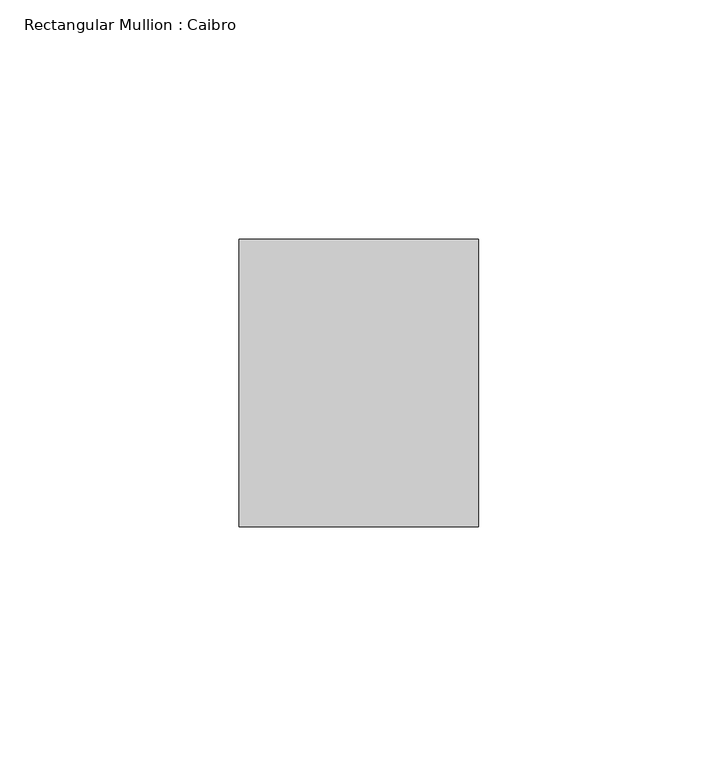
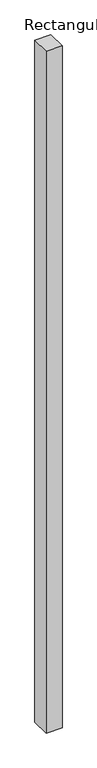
"""IFC4 building model written with IfcOpenShell, lengths in millimetres: member geometry, Rectangular Mullion : Caibro."""

from ifc_helpers import new_model, si_unit, frame, origin, place, context, project, spatial, polyline, outline, extrude, source, transform, mapped, element, save


def rectangular_mullion_caibro_469f6316(model_context):
    return source(origin(), model_context, "Body", "SweptSolid", [
        extrude(outline(polyline([(0.0, -60.0), (-50.0, -60.0), (-50.0, 0.0), (0.0, 0.0), (0.0, -60.0)])), frame((0.0, 0.0, -2249.7393248), z_axis=(0.0, 0.0, 1.0), x_axis=(1.0, 0.0, 0.0)), (0.0, 0.0, 1.0), 2249.7393248),
    ])


if __name__ == "__main__":
    model = new_model("IFC4")
    model_context = context("Model", 3, world=origin())
    ifc_project = project(units=[si_unit("LENGTHUNIT", "METRE", prefix="MILLI")], contexts=[model_context])
    site = spatial("IfcSite", under=ifc_project)
    building = spatial("IfcBuilding", under=site)
    placement = place(None, origin())
    rectangular_mullion_caibro_shape = rectangular_mullion_caibro_469f6316(model_context)
    element("IfcMember", 1, ObjectType="Rectangular Mullion : Caibro", at=placement, inside=building, context=model_context, shape_type="MappedRepresentation", body=[
        mapped(rectangular_mullion_caibro_shape, transform((0.0, 0.0, 0.0), x_axis=(1.0, 0.0, 0.0), y_axis=(0.0, 1.0, 0.0), z_axis=(0.0, 0.0, 1.0))),
    ])
    save(model, "model.ifc")
